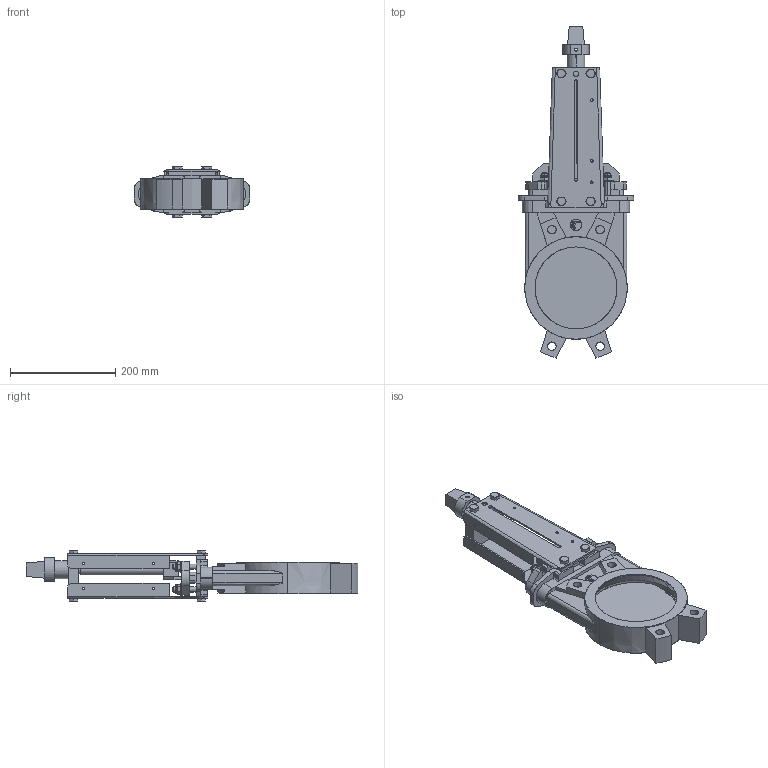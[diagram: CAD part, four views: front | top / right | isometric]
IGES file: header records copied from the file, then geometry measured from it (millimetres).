
Start section: SolidWorks IGES file using analytic representation for surfaces
Global section: file name: D:\part\3D Projects\VG-SQUARE OPERATING NON RASING(DN50-600)\VG S N DN150\VG S N DN150.IGS; native system: SolidWorks 2009; preprocessor: SolidWorks 2009; author: zhixin.zheng; date: 100504.150618; units: millimetre
Bounding box: 220 x 631.72 x 96.8 mm (x, y, z)
Surface area: 463732.4 mm2 (no closed solid volume)
Topology: 0 solids, 0 shells, 702 faces, 7361 edges, 7361 vertices
Faces by surface type: bspline 435, revolution 267
